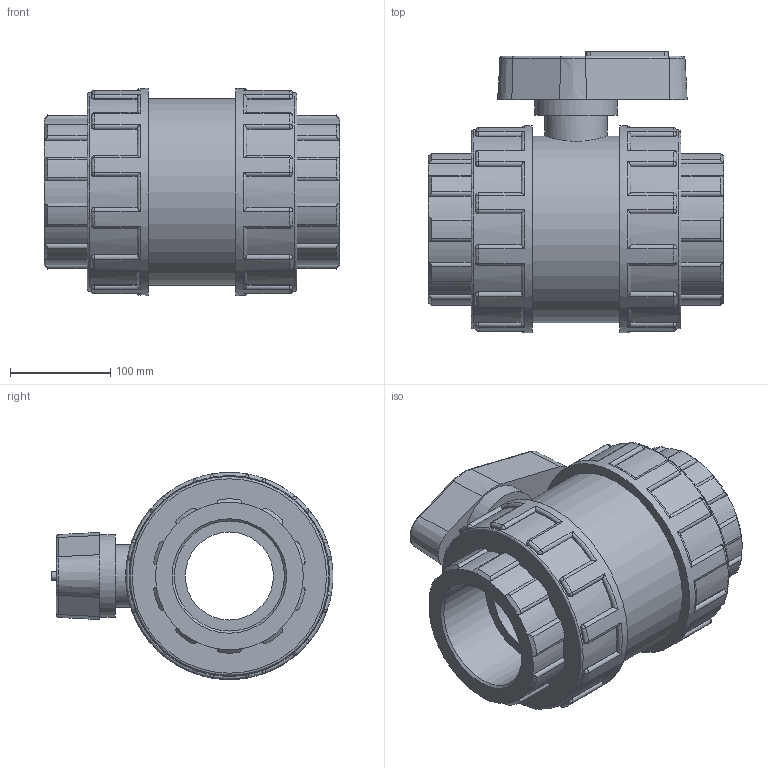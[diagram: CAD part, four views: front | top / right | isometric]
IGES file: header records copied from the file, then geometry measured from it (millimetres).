
Global section: file name: 11240110.ipt; native system: Autodesk Inventor 2015; preprocessor: unknown; author: KIM; date: 20171207.170258; units: millimetre
Bounding box: 295 x 281.69 x 207 mm (x, y, z)
Volume: 6262459 mm3; surface area: 375772.5 mm2
Topology: 1 solids, 1 shells, 434 faces, 1085 edges, 662 vertices
Faces by surface type: cylinder 189, plane 114, revolution 59, sphere 48, cone 24
Full cylindrical faces by diameter (mm): 62.1 x1, 82.8 x1, 186.3 x1, 198.72 x2, 207 x2
